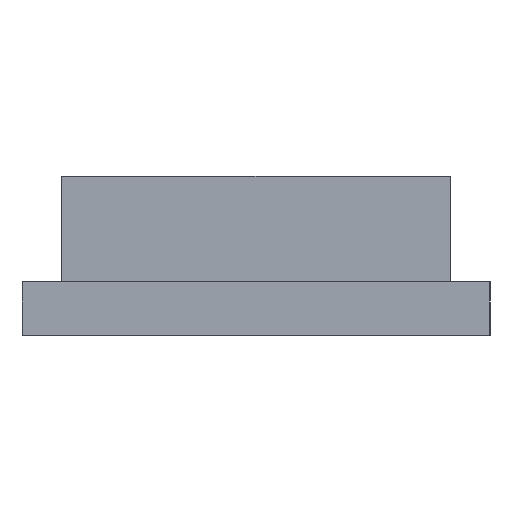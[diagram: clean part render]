
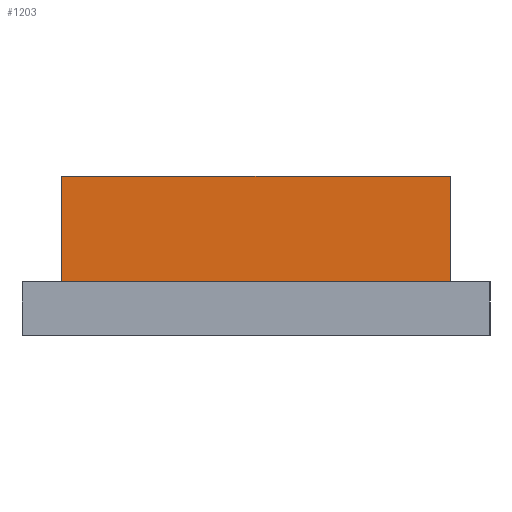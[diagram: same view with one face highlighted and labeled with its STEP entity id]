
A CAD part, left-side view. The second image highlights one B-rep face of the part: STEP entity #1203.
In plain terms, the highlighted planar face has unit normal (-1, 0, 0).
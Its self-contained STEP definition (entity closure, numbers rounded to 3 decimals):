
#126 = PLANE('',#127);
#127 = AXIS2_PLACEMENT_3D('',#128,#129,#130);
#128 = CARTESIAN_POINT('',(-45.,-43.35,5.));
#129 = DIRECTION('',(0.,0.,1.));
#130 = DIRECTION('',(1.,0.,0.));
#266 = VERTEX_POINT('',#267);
#267 = CARTESIAN_POINT('',(-37.35,-36.,5.));
#283 = PLANE('',#284);
#284 = AXIS2_PLACEMENT_3D('',#285,#286,#287);
#285 = CARTESIAN_POINT('',(-37.35,-36.,5.));
#286 = DIRECTION('',(0.,1.,0.));
#287 = DIRECTION('',(1.,0.,0.));
#295 = EDGE_CURVE('',#296,#266,#298,.T.);
#296 = VERTEX_POINT('',#297);
#297 = CARTESIAN_POINT('',(-37.35,36.,5.));
#298 = SURFACE_CURVE('',#299,(#303,#310),.PCURVE_S1.);
#299 = LINE('',#300,#301);
#300 = CARTESIAN_POINT('',(-37.35,36.,5.));
#301 = VECTOR('',#302,1.);
#302 = DIRECTION('',(0.,-1.,0.));
#303 = PCURVE('',#126,#304);
#304 = DEFINITIONAL_REPRESENTATION('',(#305),#309);
#305 = LINE('',#306,#307);
#306 = CARTESIAN_POINT('',(7.65,79.35));
#307 = VECTOR('',#308,1.);
#308 = DIRECTION('',(0.,-1.));
#309 = ( GEOMETRIC_REPRESENTATION_CONTEXT(2) 
PARAMETRIC_REPRESENTATION_CONTEXT() REPRESENTATION_CONTEXT('2D SPACE',''
  ) );
#310 = PCURVE('',#311,#316);
#311 = PLANE('',#312);
#312 = AXIS2_PLACEMENT_3D('',#313,#314,#315);
#313 = CARTESIAN_POINT('',(-37.35,36.,5.));
#314 = DIRECTION('',(1.,0.,-0.));
#315 = DIRECTION('',(0.,-1.,0.));
#316 = DEFINITIONAL_REPRESENTATION('',(#317),#321);
#317 = LINE('',#318,#319);
#318 = CARTESIAN_POINT('',(0.,0.));
#319 = VECTOR('',#320,1.);
#320 = DIRECTION('',(1.,0.));
#321 = ( GEOMETRIC_REPRESENTATION_CONTEXT(2) 
PARAMETRIC_REPRESENTATION_CONTEXT() REPRESENTATION_CONTEXT('2D SPACE',''
  ) );
#339 = PLANE('',#340);
#340 = AXIS2_PLACEMENT_3D('',#341,#342,#343);
#341 = CARTESIAN_POINT('',(-34.65,36.,5.));
#342 = DIRECTION('',(0.,-1.,0.));
#343 = DIRECTION('',(-1.,0.,0.));
#1033 = EDGE_CURVE('',#266,#1034,#1036,.T.);
#1034 = VERTEX_POINT('',#1035);
#1035 = CARTESIAN_POINT('',(-37.35,-36.,24.5));
#1036 = SURFACE_CURVE('',#1037,(#1041,#1048),.PCURVE_S1.);
#1037 = LINE('',#1038,#1039);
#1038 = CARTESIAN_POINT('',(-37.35,-36.,5.));
#1039 = VECTOR('',#1040,1.);
#1040 = DIRECTION('',(0.,0.,1.));
#1041 = PCURVE('',#283,#1042);
#1042 = DEFINITIONAL_REPRESENTATION('',(#1043),#1047);
#1043 = LINE('',#1044,#1045);
#1044 = CARTESIAN_POINT('',(0.,0.));
#1045 = VECTOR('',#1046,1.);
#1046 = DIRECTION('',(0.,-1.));
#1047 = ( GEOMETRIC_REPRESENTATION_CONTEXT(2) 
PARAMETRIC_REPRESENTATION_CONTEXT() REPRESENTATION_CONTEXT('2D SPACE',''
  ) );
#1048 = PCURVE('',#311,#1049);
#1049 = DEFINITIONAL_REPRESENTATION('',(#1050),#1054);
#1050 = LINE('',#1051,#1052);
#1051 = CARTESIAN_POINT('',(72.,0.));
#1052 = VECTOR('',#1053,1.);
#1053 = DIRECTION('',(0.,-1.));
#1054 = ( GEOMETRIC_REPRESENTATION_CONTEXT(2) 
PARAMETRIC_REPRESENTATION_CONTEXT() REPRESENTATION_CONTEXT('2D SPACE',''
  ) );
#1072 = PLANE('',#1073);
#1073 = AXIS2_PLACEMENT_3D('',#1074,#1075,#1076);
#1074 = CARTESIAN_POINT('',(-36.,0.,24.5));
#1075 = DIRECTION('',(0.,0.,1.));
#1076 = DIRECTION('',(1.,0.,-0.));
#1160 = VERTEX_POINT('',#1161);
#1161 = CARTESIAN_POINT('',(-37.35,36.,24.5));
#1182 = EDGE_CURVE('',#296,#1160,#1183,.T.);
#1183 = SURFACE_CURVE('',#1184,(#1188,#1195),.PCURVE_S1.);
#1184 = LINE('',#1185,#1186);
#1185 = CARTESIAN_POINT('',(-37.35,36.,5.));
#1186 = VECTOR('',#1187,1.);
#1187 = DIRECTION('',(0.,0.,1.));
#1188 = PCURVE('',#339,#1189);
#1189 = DEFINITIONAL_REPRESENTATION('',(#1190),#1194);
#1190 = LINE('',#1191,#1192);
#1191 = CARTESIAN_POINT('',(2.7,0.));
#1192 = VECTOR('',#1193,1.);
#1193 = DIRECTION('',(0.,-1.));
#1194 = ( GEOMETRIC_REPRESENTATION_CONTEXT(2) 
PARAMETRIC_REPRESENTATION_CONTEXT() REPRESENTATION_CONTEXT('2D SPACE',''
  ) );
#1195 = PCURVE('',#311,#1196);
#1196 = DEFINITIONAL_REPRESENTATION('',(#1197),#1201);
#1197 = LINE('',#1198,#1199);
#1198 = CARTESIAN_POINT('',(0.,0.));
#1199 = VECTOR('',#1200,1.);
#1200 = DIRECTION('',(0.,-1.));
#1201 = ( GEOMETRIC_REPRESENTATION_CONTEXT(2) 
PARAMETRIC_REPRESENTATION_CONTEXT() REPRESENTATION_CONTEXT('2D SPACE',''
  ) );
#1203 = ADVANCED_FACE('',(#1204),#311,.F.);
#1204 = FACE_BOUND('',#1205,.F.);
#1205 = EDGE_LOOP('',(#1206,#1207,#1228,#1229));
#1206 = ORIENTED_EDGE('',*,*,#1182,.T.);
#1207 = ORIENTED_EDGE('',*,*,#1208,.T.);
#1208 = EDGE_CURVE('',#1160,#1034,#1209,.T.);
#1209 = SURFACE_CURVE('',#1210,(#1214,#1221),.PCURVE_S1.);
#1210 = LINE('',#1211,#1212);
#1211 = CARTESIAN_POINT('',(-37.35,36.,24.5));
#1212 = VECTOR('',#1213,1.);
#1213 = DIRECTION('',(0.,-1.,0.));
#1214 = PCURVE('',#311,#1215);
#1215 = DEFINITIONAL_REPRESENTATION('',(#1216),#1220);
#1216 = LINE('',#1217,#1218);
#1217 = CARTESIAN_POINT('',(0.,-19.5));
#1218 = VECTOR('',#1219,1.);
#1219 = DIRECTION('',(1.,0.));
#1220 = ( GEOMETRIC_REPRESENTATION_CONTEXT(2) 
PARAMETRIC_REPRESENTATION_CONTEXT() REPRESENTATION_CONTEXT('2D SPACE',''
  ) );
#1221 = PCURVE('',#1072,#1222);
#1222 = DEFINITIONAL_REPRESENTATION('',(#1223),#1227);
#1223 = LINE('',#1224,#1225);
#1224 = CARTESIAN_POINT('',(-1.35,36.));
#1225 = VECTOR('',#1226,1.);
#1226 = DIRECTION('',(0.,-1.));
#1227 = ( GEOMETRIC_REPRESENTATION_CONTEXT(2) 
PARAMETRIC_REPRESENTATION_CONTEXT() REPRESENTATION_CONTEXT('2D SPACE',''
  ) );
#1228 = ORIENTED_EDGE('',*,*,#1033,.F.);
#1229 = ORIENTED_EDGE('',*,*,#295,.F.);
